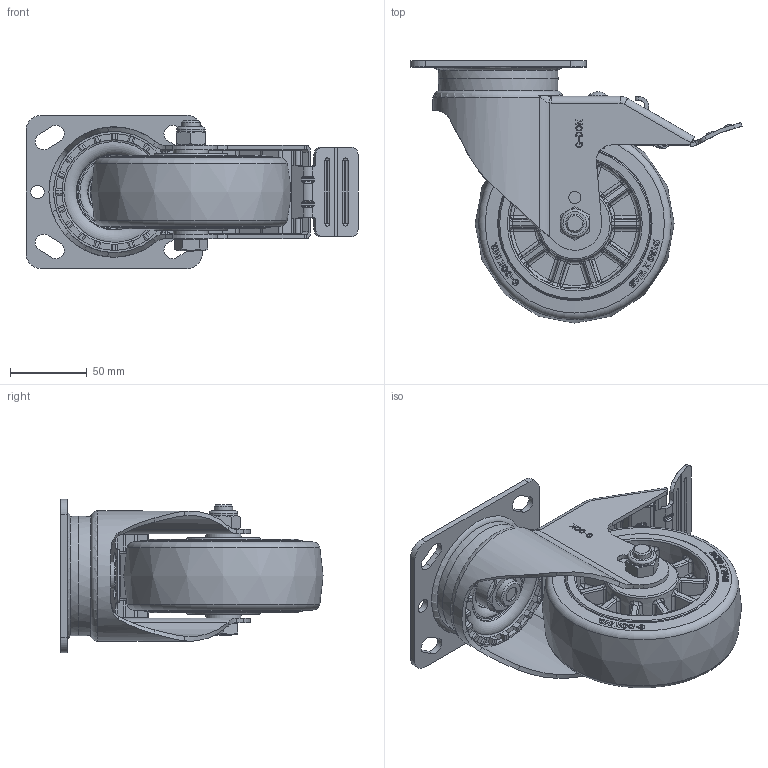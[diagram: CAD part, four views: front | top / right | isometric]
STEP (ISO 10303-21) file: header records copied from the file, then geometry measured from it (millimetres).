
FILE_DESCRIPTION(/* description */ (''),/* implementation_level */ '2;1');
FILE_NAME(/* name */ 'C:\Users\admin\Desktop\업무폴더\일자별 업무\2026\05월\05.15\변환\SPH-130-BSF-TUD&HRD.ipt.stp',/* time_stamp */ '2026-05-15T16:33:52+09:00',/* author */ ('admin'),/* organization */ ('지덕산업'),/* preprocessor_version */ 'ST-DEVELOPER v18.1',/* originating_system */ 'Autodesk Inventor 2021',/* authorisation */ '');
FILE_SCHEMA (('AP203_CONFIGURATION_CONTROLLED_3D_DESIGN_OF_MECHANICAL_PARTS_AND_ASSEMBLIES_MIM_LF { 1 0 10303 203 3 1 4 }','AUTOMOTIVE_DESIGN { 1 0 10303 214 3 1 1 }'));
Products named in the file (1): SPH-130-BSF-TUD&HRD
Bounding box: 216.54 x 171 x 100 mm (x, y, z)
Volume: 730722 mm3; surface area: 158274.2 mm2
Topology: 1 solids, 2 shells, 2100 faces, 5439 edges, 3418 vertices
Faces by surface type: plane 818, bspline 679, cylinder 350, cone 90, torus 82, sphere 81
Full cylindrical faces by diameter (mm): 6 x1, 8 x5, 9 x3, 10 x1, 12 x2, 18 x2, 18.5 x1, 31 x1, 31.177 x1
Entity records: 75448 total; most frequent: CARTESIAN_POINT 29428, ORIENTED_EDGE 10842, DIRECTION 7659, EDGE_CURVE 5423, VERTEX_POINT 3418, AXIS2_PLACEMENT_3D 2668, LINE 2323, VECTOR 2323
